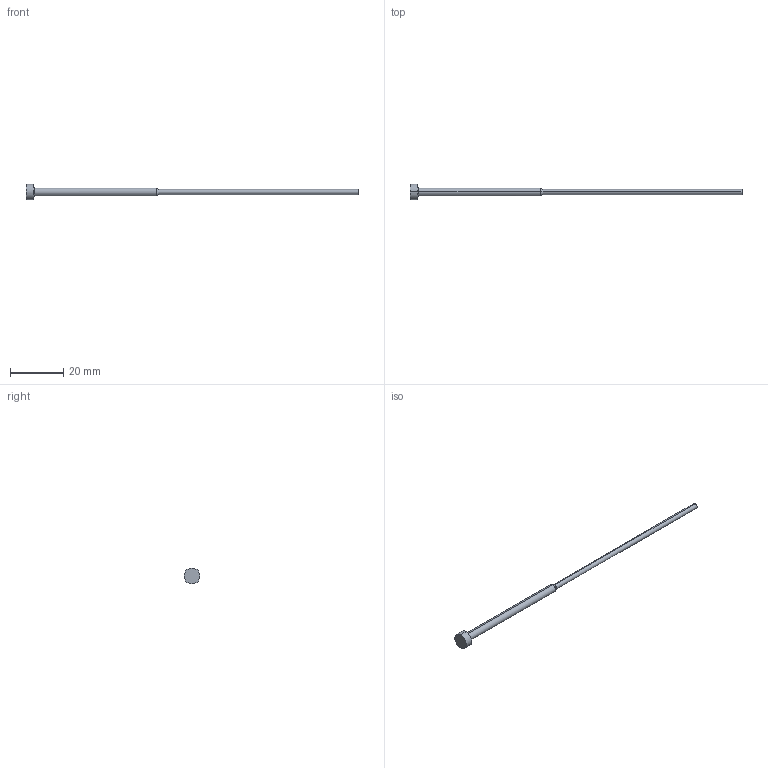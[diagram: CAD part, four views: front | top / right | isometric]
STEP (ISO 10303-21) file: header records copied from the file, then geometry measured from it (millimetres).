
FILE_DESCRIPTION(('CATIA V5 STEP Exchange'),'2;1');
FILE_NAME('C:\Users\Utente\Desktop\IO LAVORO\3D X SITO CF\X SITO\PLASTICA\359\359-2X3X125.stp','2021-05-14T18:20:53+00:00',('none'),('none'),'CATIA Version 5 Release 20 GA (IN-10)','CATIA V5 STEP AP203','none');
FILE_SCHEMA(('CONFIG_CONTROL_DESIGN'));
Length unit declared in the file: millimetre
Products named in the file (1): 359-2X3X125
Bounding box: 125 x 6 x 6 mm (x, y, z)
Volume: 651 mm3; surface area: 1021.9 mm2
Topology: 1 solids, 1 shells, 13 faces, 38 edges, 28 vertices
Faces by surface type: cylinder 6, plane 3, cone 2, torus 2
Entity records: 526 total; most frequent: CARTESIAN_POINT 140, ORIENTED_EDGE 76, DIRECTION 58, AXIS2_PLACEMENT_3D 38, EDGE_CURVE 38, VERTEX_POINT 28, CIRCLE 24, EDGE_LOOP 14
